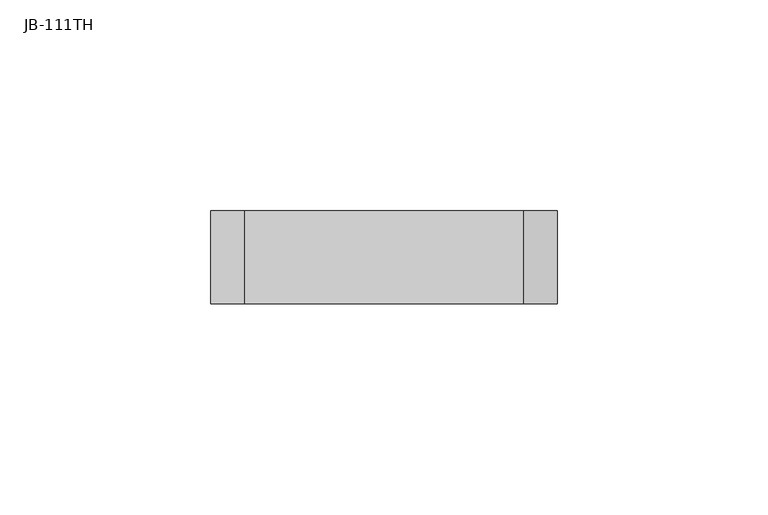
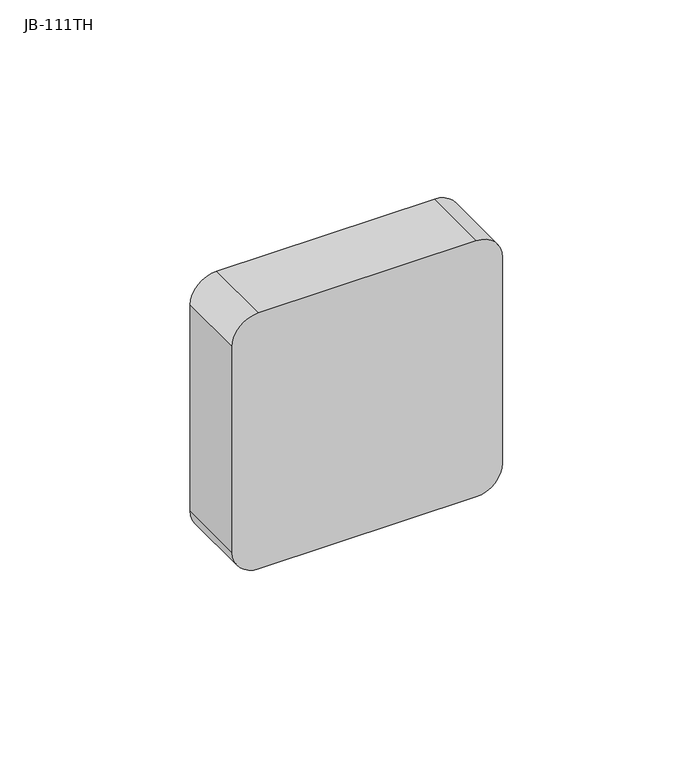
"""IFC4 building model written with IfcOpenShell, lengths in millimetres: electric appliance geometry, Termostaty.CC : JB-111TH."""

from ifc_helpers import new_model, si_unit, point, frame, frame_2d, origin, place, context, project, spatial, polyline, circle_curve, trimmed, segment, composite_curve, outline, extrude, source, transform, mapped, element, save


def jb_111th_27b51d0b(model_context):
    return source(origin(), model_context, "Body", "SweptSolid", [
        extrude(outline(composite_curve([segment(polyline([(41.0, 33.0), (41.0, -33.0)]), True, "CONTINUOUS"), segment(trimmed(circle_curve(frame_2d((33.0, -33.0)), 8.0), [point((41.0, -33.0))], [point((33.0, -41.0))], False, "CARTESIAN"), True, "CONTINUOUS"), segment(polyline([(33.0, -41.0), (-33.0, -41.0)]), True, "CONTINUOUS"), segment(trimmed(circle_curve(frame_2d((-33.0, -33.0)), 8.0), [point((-33.0, -41.0))], [point((-41.0, -33.0))], False, "CARTESIAN"), True, "CONTINUOUS"), segment(polyline([(-41.0, -33.0), (-41.0, 33.0)]), True, "CONTINUOUS"), segment(trimmed(circle_curve(frame_2d((-33.0, 33.0)), 8.0), [point((-41.0, 33.0))], [point((-33.0, 41.0))], False, "CARTESIAN"), True, "CONTINUOUS"), segment(polyline([(-33.0, 41.0), (33.0, 41.0)]), True, "CONTINUOUS"), segment(trimmed(circle_curve(frame_2d((33.0, 33.0)), 8.0), [point((33.0, 41.0))], [point((41.0, 33.0))], False, "CARTESIAN"), True, "CONTINUOUS")], self_intersect=False)), frame((0.0, -22.0, 0.0), z_axis=(0.0, 1.0, 0.0), x_axis=(0.0, 0.0, 1.0)), (0.0, 0.0, 1.0), 22.0),
        extrude(outline(composite_curve([segment(polyline([(41.0, 33.0), (41.0, -33.0)]), True, "CONTINUOUS"), segment(trimmed(circle_curve(frame_2d((33.0, -33.0)), 8.0), [point((41.0, -33.0))], [point((33.0, -41.0))], False, "CARTESIAN"), True, "CONTINUOUS"), segment(polyline([(33.0, -41.0), (-33.0, -41.0)]), True, "CONTINUOUS"), segment(trimmed(circle_curve(frame_2d((-33.0, -33.0)), 8.0), [point((-33.0, -41.0))], [point((-41.0, -33.0))], False, "CARTESIAN"), True, "CONTINUOUS"), segment(polyline([(-41.0, -33.0), (-41.0, 33.0)]), True, "CONTINUOUS"), segment(trimmed(circle_curve(frame_2d((-33.0, 33.0)), 8.0), [point((-41.0, 33.0))], [point((-33.0, 41.0))], False, "CARTESIAN"), True, "CONTINUOUS"), segment(polyline([(-33.0, 41.0), (33.0, 41.0)]), True, "CONTINUOUS"), segment(trimmed(circle_curve(frame_2d((33.0, 33.0)), 8.0), [point((33.0, 41.0))], [point((41.0, 33.0))], False, "CARTESIAN"), True, "CONTINUOUS")], self_intersect=False)), frame((0.0, -22.0, 0.0), z_axis=(0.0, 1.0, 0.0), x_axis=(0.0, 0.0, 1.0)), (0.0, 0.0, 1.0), 22.0),
    ])


if __name__ == "__main__":
    model = new_model("IFC4")
    model_context = context("Model", 3, world=origin())
    ifc_project = project(units=[si_unit("LENGTHUNIT", "METRE", prefix="MILLI")], contexts=[model_context])
    site = spatial("IfcSite", under=ifc_project)
    building = spatial("IfcBuilding", under=site)
    placement = place(None, origin())
    jb_111th_shape = jb_111th_27b51d0b(model_context)
    element("IfcElectricAppliance", 1, ObjectType="Termostaty.CC : JB-111TH", at=placement, inside=building, context=model_context, shape_type="MappedRepresentation", body=[
        mapped(jb_111th_shape, transform((0.0, 0.0, 0.0), x_axis=(1.0, 0.0, 0.0), y_axis=(0.0, 1.0, 0.0), z_axis=(0.0, 0.0, 1.0))),
    ])
    save(model, "model.ifc")
